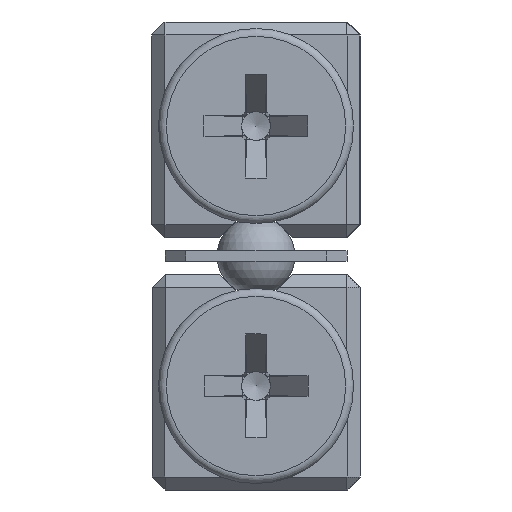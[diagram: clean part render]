
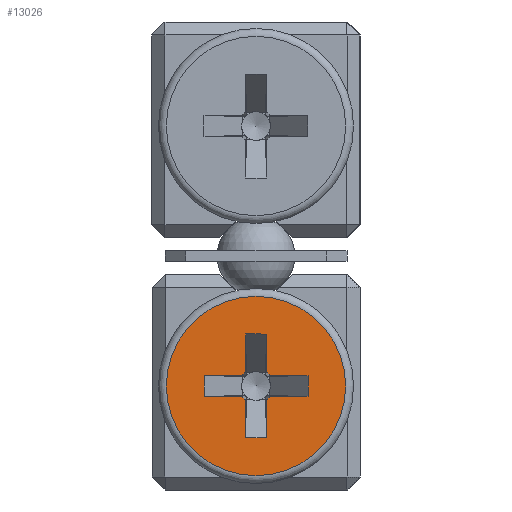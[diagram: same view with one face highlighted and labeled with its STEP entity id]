
A CAD part, left-side view. The second image highlights one B-rep face of the part: STEP entity #13026.
In plain terms, the highlighted planar face has unit normal (-1, 0, 0).
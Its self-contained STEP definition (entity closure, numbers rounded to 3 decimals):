
#110 = CARTESIAN_POINT ( 'NONE',  ( -64.5, 2., 4.4 ) ) ;
#116 = VECTOR ( 'NONE', #12015, 1000. ) ;
#287 = VERTEX_POINT ( 'NONE', #10049 ) ;
#324 = AXIS2_PLACEMENT_3D ( 'NONE', #13777, #3531, #9140 ) ;
#363 = VERTEX_POINT ( 'NONE', #12443 ) ;
#376 = EDGE_CURVE ( 'NONE', #3096, #6004, #5424, .T. ) ;
#633 = CARTESIAN_POINT ( 'NONE',  ( -64.5, -0.4, 6. ) ) ;
#797 = EDGE_CURVE ( 'NONE', #3023, #4992, #14028, .T. ) ;
#1083 = VECTOR ( 'NONE', #9681, 1000. ) ;
#1095 = DIRECTION ( 'NONE',  ( 0., 1., 0. ) ) ;
#1180 = ORIENTED_EDGE ( 'NONE', *, *, #12841, .F. ) ;
#1412 = EDGE_CURVE ( 'NONE', #13486, #7175, #1607, .T. ) ;
#1455 = ORIENTED_EDGE ( 'NONE', *, *, #12120, .F. ) ;
#1578 = CARTESIAN_POINT ( 'NONE',  ( -64.5, 0.548, 3.6 ) ) ;
#1607 = LINE ( 'NONE', #633, #7189 ) ;
#1659 = CARTESIAN_POINT ( 'NONE',  ( -64.5, 0.4, 3.452 ) ) ;
#2139 = LINE ( 'NONE', #12677, #8259 ) ;
#2229 = CIRCLE ( 'NONE', #324, 0.678 ) ;
#2465 = FACE_OUTER_BOUND ( 'NONE', #9126, .T. ) ;
#2626 = CARTESIAN_POINT ( 'NONE',  ( -64.5, 0., 4. ) ) ;
#2634 = VECTOR ( 'NONE', #11735, 1000. ) ;
#2665 = VERTEX_POINT ( 'NONE', #7792 ) ;
#2670 = VECTOR ( 'NONE', #14398, 1000. ) ;
#2951 = EDGE_CURVE ( 'NONE', #3076, #3076, #7446, .T. ) ;
#3023 = VERTEX_POINT ( 'NONE', #1578 ) ;
#3039 = EDGE_CURVE ( 'NONE', #3096, #11258, #6133, .T. ) ;
#3076 = VERTEX_POINT ( 'NONE', #7646 ) ;
#3096 = VERTEX_POINT ( 'NONE', #5314 ) ;
#3339 = CARTESIAN_POINT ( 'NONE',  ( -64.5, 0.4, 6. ) ) ;
#3355 = CARTESIAN_POINT ( 'NONE',  ( -64.5, 3.75, 4. ) ) ;
#3508 = CARTESIAN_POINT ( 'NONE',  ( -64.5, -0.4, 6. ) ) ;
#3531 = DIRECTION ( 'NONE',  ( -1., 0., 0. ) ) ;
#3780 = EDGE_CURVE ( 'NONE', #6476, #2665, #12053, .T. ) ;
#3949 = CARTESIAN_POINT ( 'NONE',  ( -64.5, -0.548, 3.6 ) ) ;
#4204 = CARTESIAN_POINT ( 'NONE',  ( -64.5, -0.4, 6. ) ) ;
#4304 = CIRCLE ( 'NONE', #4795, 0.678 ) ;
#4571 = VECTOR ( 'NONE', #5010, 1000. ) ;
#4724 = AXIS2_PLACEMENT_3D ( 'NONE', #5701, #13617, #9206 ) ;
#4795 = AXIS2_PLACEMENT_3D ( 'NONE', #7063, #11630, #12595 ) ;
#4992 = VERTEX_POINT ( 'NONE', #1659 ) ;
#5010 = DIRECTION ( 'NONE',  ( 0., 0., -1. ) ) ;
#5016 = CARTESIAN_POINT ( 'NONE',  ( -64.5, -2., 3.6 ) ) ;
#5074 = EDGE_CURVE ( 'NONE', #3023, #11258, #9428, .T. ) ;
#5111 = LINE ( 'NONE', #4204, #1083 ) ;
#5314 = CARTESIAN_POINT ( 'NONE',  ( -64.5, 2., 4.4 ) ) ;
#5424 = LINE ( 'NONE', #8929, #2670 ) ;
#5524 = VECTOR ( 'NONE', #10824, 1000. ) ;
#5701 = CARTESIAN_POINT ( 'NONE',  ( -64.5, 0., 4. ) ) ;
#5915 = DIRECTION ( 'NONE',  ( 0., 0., -1. ) ) ;
#6004 = VERTEX_POINT ( 'NONE', #7065 ) ;
#6133 = LINE ( 'NONE', #10694, #4571 ) ;
#6142 = ORIENTED_EDGE ( 'NONE', *, *, #7811, .T. ) ;
#6187 = LINE ( 'NONE', #10753, #5524 ) ;
#6476 = VERTEX_POINT ( 'NONE', #7570 ) ;
#6688 = EDGE_CURVE ( 'NONE', #10656, #7175, #13059, .T. ) ;
#6790 = ORIENTED_EDGE ( 'NONE', *, *, #2951, .T. ) ;
#6852 = ORIENTED_EDGE ( 'NONE', *, *, #797, .F. ) ;
#7002 = ORIENTED_EDGE ( 'NONE', *, *, #8778, .T. ) ;
#7063 = CARTESIAN_POINT ( 'NONE',  ( -64.5, 0., 4. ) ) ;
#7065 = CARTESIAN_POINT ( 'NONE',  ( -64.5, 0.548, 4.4 ) ) ;
#7169 = CARTESIAN_POINT ( 'NONE',  ( -64.5, -2., 3.6 ) ) ;
#7175 = VERTEX_POINT ( 'NONE', #3339 ) ;
#7189 = VECTOR ( 'NONE', #13189, 1000. ) ;
#7446 = CIRCLE ( 'NONE', #11752, 3.45 ) ;
#7570 = CARTESIAN_POINT ( 'NONE',  ( -64.5, -0.548, 4.4 ) ) ;
#7646 = CARTESIAN_POINT ( 'NONE',  ( -64.5, 0., 0.55 ) ) ;
#7765 = VECTOR ( 'NONE', #9357, 1000. ) ;
#7792 = CARTESIAN_POINT ( 'NONE',  ( -64.5, -2., 4.4 ) ) ;
#7811 = EDGE_CURVE ( 'NONE', #10322, #287, #5111, .T. ) ;
#7931 = DIRECTION ( 'NONE',  ( 0., 0., -1. ) ) ;
#7968 = ORIENTED_EDGE ( 'NONE', *, *, #10726, .T. ) ;
#8043 = ORIENTED_EDGE ( 'NONE', *, *, #11291, .F. ) ;
#8076 = EDGE_CURVE ( 'NONE', #13486, #363, #10564, .T. ) ;
#8099 = CARTESIAN_POINT ( 'NONE',  ( -64.5, -0.4, 6. ) ) ;
#8216 = ORIENTED_EDGE ( 'NONE', *, *, #376, .T. ) ;
#8259 = VECTOR ( 'NONE', #1095, 1000. ) ;
#8331 = EDGE_CURVE ( 'NONE', #10656, #6004, #11120, .T. ) ;
#8360 = ORIENTED_EDGE ( 'NONE', *, *, #3780, .T. ) ;
#8396 = ORIENTED_EDGE ( 'NONE', *, *, #6688, .T. ) ;
#8778 = EDGE_CURVE ( 'NONE', #14720, #13613, #2139, .T. ) ;
#8929 = CARTESIAN_POINT ( 'NONE',  ( -64.5, 2., 4.4 ) ) ;
#9126 = EDGE_LOOP ( 'NONE', ( #6790 ) ) ;
#9140 = DIRECTION ( 'NONE',  ( 0., 0., 1. ) ) ;
#9203 = LINE ( 'NONE', #11451, #12747 ) ;
#9206 = DIRECTION ( 'NONE',  ( 0., 0., 1. ) ) ;
#9357 = DIRECTION ( 'NONE',  ( 0., 0., -1. ) ) ;
#9428 = LINE ( 'NONE', #5016, #14753 ) ;
#9479 = EDGE_LOOP ( 'NONE', ( #11083, #6142, #8043, #7968, #6852, #14661, #12701, #8216, #12391, #8396, #13587, #12049, #1180, #8360, #1455, #7002 ) ) ;
#9681 = DIRECTION ( 'NONE',  ( 0., 0., -1. ) ) ;
#9686 = CARTESIAN_POINT ( 'NONE',  ( -64.5, 0.4, 2. ) ) ;
#9748 = CARTESIAN_POINT ( 'NONE',  ( -64.5, 0.4, 4.548 ) ) ;
#10030 = VERTEX_POINT ( 'NONE', #9686 ) ;
#10049 = CARTESIAN_POINT ( 'NONE',  ( -64.5, -0.4, 2. ) ) ;
#10167 = PLANE ( 'NONE',  #13392 ) ;
#10189 = EDGE_CURVE ( 'NONE', #10322, #13613, #2229, .T. ) ;
#10322 = VERTEX_POINT ( 'NONE', #14736 ) ;
#10564 = LINE ( 'NONE', #8099, #7765 ) ;
#10622 = DIRECTION ( 'NONE',  ( -1., 0., 0. ) ) ;
#10656 = VERTEX_POINT ( 'NONE', #9748 ) ;
#10681 = LINE ( 'NONE', #7169, #2634 ) ;
#10694 = CARTESIAN_POINT ( 'NONE',  ( -64.5, 2., 4.4 ) ) ;
#10709 = CARTESIAN_POINT ( 'NONE',  ( -64.5, -2., 3.6 ) ) ;
#10726 = EDGE_CURVE ( 'NONE', #10030, #4992, #9203, .T. ) ;
#10753 = CARTESIAN_POINT ( 'NONE',  ( -64.5, 0.4, 2. ) ) ;
#10824 = DIRECTION ( 'NONE',  ( 0., -1., 0. ) ) ;
#11083 = ORIENTED_EDGE ( 'NONE', *, *, #10189, .F. ) ;
#11120 = CIRCLE ( 'NONE', #13023, 0.678 ) ;
#11258 = VERTEX_POINT ( 'NONE', #13223 ) ;
#11291 = EDGE_CURVE ( 'NONE', #10030, #287, #6187, .T. ) ;
#11306 = DIRECTION ( 'NONE',  ( 0., 0., 1. ) ) ;
#11355 = CARTESIAN_POINT ( 'NONE',  ( -64.5, 0., 4. ) ) ;
#11451 = CARTESIAN_POINT ( 'NONE',  ( -64.5, 0.4, 2. ) ) ;
#11630 = DIRECTION ( 'NONE',  ( -1., 0., 0. ) ) ;
#11735 = DIRECTION ( 'NONE',  ( 0., 0., 1. ) ) ;
#11752 = AXIS2_PLACEMENT_3D ( 'NONE', #2626, #10622, #5915 ) ;
#11760 = DIRECTION ( 'NONE',  ( 0., 1., 0. ) ) ;
#12015 = DIRECTION ( 'NONE',  ( 0., 0., 1. ) ) ;
#12049 = ORIENTED_EDGE ( 'NONE', *, *, #8076, .T. ) ;
#12053 = LINE ( 'NONE', #110, #13028 ) ;
#12120 = EDGE_CURVE ( 'NONE', #14720, #2665, #10681, .T. ) ;
#12391 = ORIENTED_EDGE ( 'NONE', *, *, #8331, .F. ) ;
#12443 = CARTESIAN_POINT ( 'NONE',  ( -64.5, -0.4, 4.548 ) ) ;
#12543 = DIRECTION ( 'NONE',  ( -1., 0., 0. ) ) ;
#12595 = DIRECTION ( 'NONE',  ( 0., 0., 1. ) ) ;
#12677 = CARTESIAN_POINT ( 'NONE',  ( -64.5, -2., 3.6 ) ) ;
#12701 = ORIENTED_EDGE ( 'NONE', *, *, #3039, .F. ) ;
#12747 = VECTOR ( 'NONE', #11306, 1000. ) ;
#12841 = EDGE_CURVE ( 'NONE', #6476, #363, #4304, .T. ) ;
#13023 = AXIS2_PLACEMENT_3D ( 'NONE', #11355, #12543, #14792 ) ;
#13026 = ADVANCED_FACE ( 'NONE', ( #2465, #13601 ), #10167, .F. ) ;
#13028 = VECTOR ( 'NONE', #14764, 1000. ) ;
#13059 = LINE ( 'NONE', #13207, #116 ) ;
#13189 = DIRECTION ( 'NONE',  ( 0., 1., 0. ) ) ;
#13207 = CARTESIAN_POINT ( 'NONE',  ( -64.5, 0.4, 2. ) ) ;
#13223 = CARTESIAN_POINT ( 'NONE',  ( -64.5, 2., 3.6 ) ) ;
#13392 = AXIS2_PLACEMENT_3D ( 'NONE', #3355, #13677, #7931 ) ;
#13486 = VERTEX_POINT ( 'NONE', #3508 ) ;
#13587 = ORIENTED_EDGE ( 'NONE', *, *, #1412, .F. ) ;
#13601 = FACE_BOUND ( 'NONE', #9479, .T. ) ;
#13613 = VERTEX_POINT ( 'NONE', #3949 ) ;
#13617 = DIRECTION ( 'NONE',  ( -1., 0., 0. ) ) ;
#13677 = DIRECTION ( 'NONE',  ( 1., 0., 0. ) ) ;
#13777 = CARTESIAN_POINT ( 'NONE',  ( -64.5, 0., 4. ) ) ;
#14028 = CIRCLE ( 'NONE', #4724, 0.678 ) ;
#14398 = DIRECTION ( 'NONE',  ( 0., -1., 0. ) ) ;
#14661 = ORIENTED_EDGE ( 'NONE', *, *, #5074, .T. ) ;
#14720 = VERTEX_POINT ( 'NONE', #10709 ) ;
#14736 = CARTESIAN_POINT ( 'NONE',  ( -64.5, -0.4, 3.452 ) ) ;
#14753 = VECTOR ( 'NONE', #11760, 1000. ) ;
#14764 = DIRECTION ( 'NONE',  ( 0., -1., 0. ) ) ;
#14792 = DIRECTION ( 'NONE',  ( 0., 0., 1. ) ) ;
